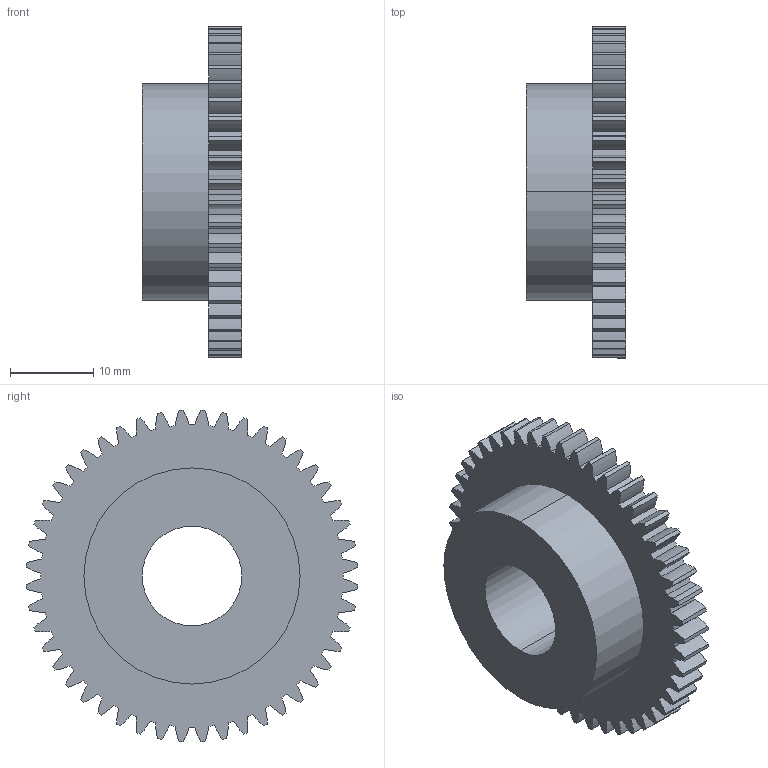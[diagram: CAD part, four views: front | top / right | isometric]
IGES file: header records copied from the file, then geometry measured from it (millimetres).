
Start section: 3D InterOp IGES (v. 2020 1.0.1), Spatial Corp. Copyright (c) 1999-2017.
Global section: file name: ssp08_w4_t48_b.igs; native system: Spatial Corp.; preprocessor: 3D InterOp ACIS/IGES; author: TraceParts; organization: TraceParts S.A.; date: 20220624.032355; units: millimetre
Bounding box: 12 x 39.94 x 39.94 mm (x, y, z)
Surface area: 4131.9 mm2 (no closed solid volume)
Topology: 0 solids, 0 shells, 209 faces, 1236 edges, 1236 vertices
Faces by surface type: revolution 206, extrusion 3
